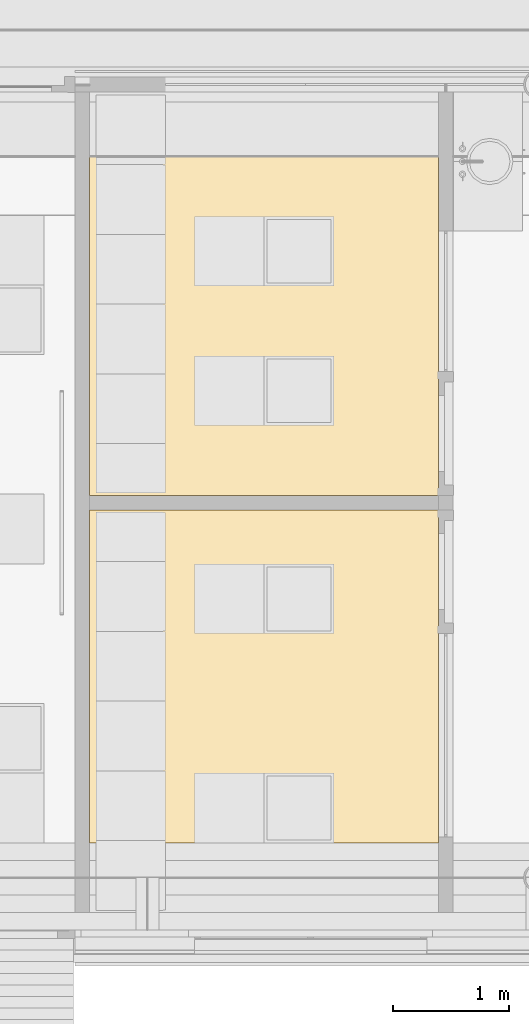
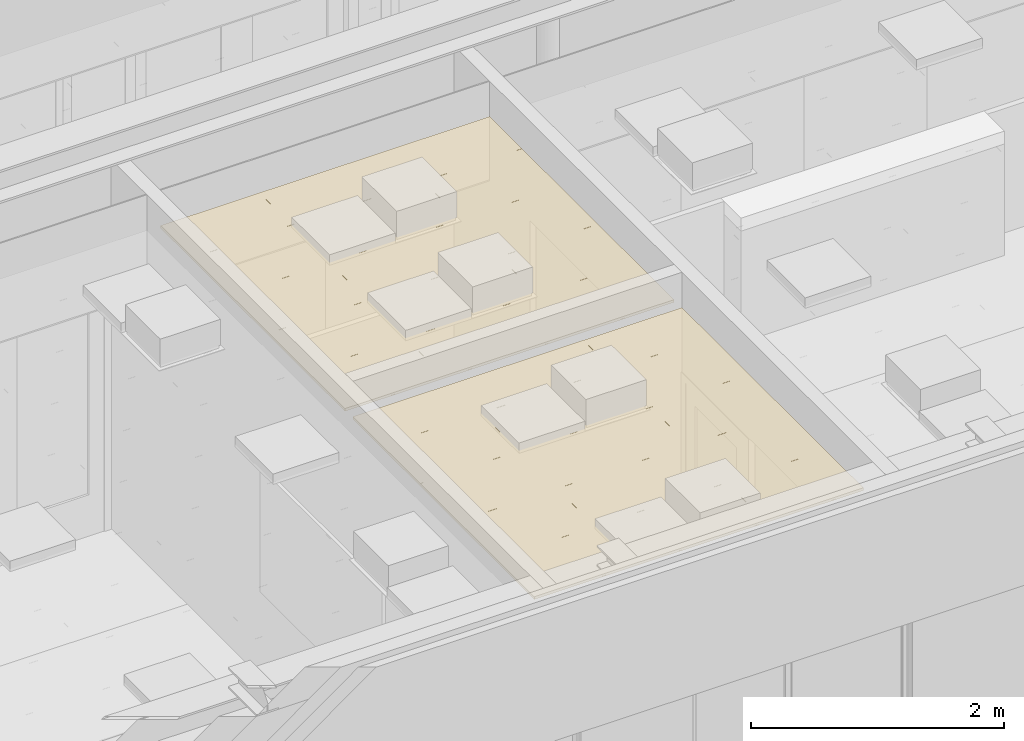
# One storey, part 158 of 347: 2 coverings.
"""IFC2X3 building model written with IfcOpenShell, lengths in millimetres."""

from ifc_helpers import new_model, entity, si_unit, converted_unit, derived_unit, money_unit, direction, frame, origin_with_axes, place, context, subcontext, project, spatial, faceted_brep, type_object, element, save


model = new_model("IFC2X3")

# Units and contexts
model_context = context("Model", 3, precision=0.01, world=origin_with_axes(), true_north=direction((0.0, 1.0)))
plan_context = context("Plan", 3, precision=0.01, world=origin_with_axes(), true_north=direction((0.0, 1.0)))
body_context = subcontext(model_context, "Body", "Model", "MODEL_VIEW")
ifc_project = project(units=[si_unit("LENGTHUNIT", "METRE", prefix="MILLI"), si_unit("AREAUNIT", "SQUARE_METRE"), si_unit("VOLUMEUNIT", "CUBIC_METRE"), converted_unit("PLANEANGLEUNIT", "DEGREE", entity("IfcPlaneAngleMeasure", 0.0174532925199), si_unit("PLANEANGLEUNIT", "RADIAN"), dimensions=[0, 0, 0, 0, 0, 0, 0]), money_unit("EUR"), converted_unit("TIMEUNIT", "Year", entity("IfcTimeMeasure", 31556926.0), si_unit("TIMEUNIT", "SECOND"), dimensions=[0, 0, 1, 0, 0, 0, 0]), si_unit("MASSUNIT", "GRAM", prefix="KILO"), si_unit("THERMODYNAMICTEMPERATUREUNIT", "DEGREE_CELSIUS"), si_unit("LUMINOUSINTENSITYUNIT", "LUMEN"), si_unit("ENERGYUNIT", "JOULE", prefix="MEGA"), derived_unit("THERMALCONDUCTANCEUNIT", [(si_unit("POWERUNIT", "WATT"), 1), (si_unit("LENGTHUNIT", "METRE"), -1), (si_unit("THERMODYNAMICTEMPERATUREUNIT", "KELVIN"), -1)]), derived_unit("SPECIFICHEATCAPACITYUNIT", [(si_unit("ENERGYUNIT", "JOULE"), 1), (si_unit("MASSUNIT", "GRAM", prefix="KILO"), -1), (si_unit("THERMODYNAMICTEMPERATUREUNIT", "KELVIN"), -1)]), derived_unit("MASSDENSITYUNIT", [(si_unit("MASSUNIT", "GRAM", prefix="KILO"), 1), (si_unit("VOLUMEUNIT", "CUBIC_METRE"), -1)])], contexts=[model_context, plan_context])

# Site, building, storey
site_placement = place(None, origin_with_axes())
site = spatial("IfcSite", under=ifc_project, at=site_placement, Name="Site", CompositionType="ELEMENT")
building_placement = place(site_placement, origin_with_axes())
building = spatial("IfcBuilding", under=site, at=building_placement, Name="Naam gebouw", CompositionType="ELEMENT")
storey_placement = place(building_placement, origin_with_axes())
storey = spatial("IfcBuildingStorey", under=building, at=storey_placement, Name="begane grond", CompositionType="ELEMENT", Elevation=0.0)

# Coverings
covering_type = type_object("IfcCoveringType", Name="Ceiling Editor INT_v2.01", PredefinedType="CEILING")
covering_1_placement = place(storey_placement, frame((14650.0, 8590.0, 3200.0), z_axis=(0.0, 0.0, 1.0), x_axis=(1.0, 0.0, 0.0)))
element("IfcCovering", 1, at=covering_1_placement, inside=storey, type_object=covering_type, Name="45 Plafondafwerkingen_77 garderobe", PredefinedType="CEILING", context=body_context, shape_type="Brep", body=[
    faceted_brep([(0.0, 599.9, 0.0), (0.0, 599.9, 20.0), (899.9, 599.9, 20.0), (899.9, 599.9, 0.0), (0.0, 0.1, 0.0), (0.0, 0.1, 20.0), (899.9, 0.1, 20.0), (899.9, 0.1, 0.0)], [[[0, 1, 2, 3]], [[1, 0, 4, 5]], [[1, 5, 6, 2]], [[6, 7, 3, 2]], [[4, 0, 3, 7]], [[5, 4, 7, 6]]]),
    faceted_brep([(0.0, 1199.9, 0.0), (0.0, 1199.9, 20.0), (899.9, 1199.9, 20.0), (899.9, 1199.9, 0.0), (0.0, 727.499993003, 0.0), (0.0, 727.499993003, 20.0), (0.0, 600.1, 20.0), (899.9, 600.1, 20.0), (899.9, 600.1, 0.0), (0.0, 600.1, 0.0)], [[[0, 1, 2, 3]], [[1, 0, 4, 5]], [[5, 6, 7, 2, 1]], [[7, 8, 3, 2]], [[4, 0, 3, 8, 9]], [[6, 5, 4, 9]], [[6, 9, 8, 7]]]),
    faceted_brep([(0.0, 1799.9, 0.0), (0.0, 1799.9, 20.0), (899.9, 1799.9, 20.0), (899.9, 1799.9, 0.0), (0.0, 1454.99998601, 0.0), (0.0, 1454.99998601, 20.0), (0.0, 1200.1, 20.0), (899.9, 1200.1, 20.0), (899.9, 1200.1, 0.0), (0.0, 1200.1, 0.0)], [[[0, 1, 2, 3]], [[1, 0, 4, 5]], [[5, 6, 7, 2, 1]], [[7, 8, 3, 2]], [[4, 0, 3, 8, 9]], [[6, 5, 4, 9]], [[6, 9, 8, 7]]]),
    faceted_brep([(0.0, 2399.9, 0.0), (0.0, 2399.9, 20.0), (899.9, 2399.9, 20.0), (899.9, 2399.9, 0.0), (0.0, 2182.49997901, 0.0), (0.0, 2182.49997901, 20.0), (0.0, 1800.1, 20.0), (899.9, 1800.1, 20.0), (899.9, 1800.1, 0.0), (0.0, 1800.1, 0.0)], [[[0, 1, 2, 3]], [[1, 0, 4, 5]], [[5, 6, 7, 2, 1]], [[7, 8, 3, 2]], [[4, 0, 3, 8, 9]], [[6, 5, 4, 9]], [[6, 9, 8, 7]]]),
    faceted_brep([(899.9, 2909.99997201, 0.0), (899.9, 2909.99997201, 20.0), (899.9, 2400.1, 20.0), (899.9, 2400.1, 0.0), (750.0, 2909.99997201, 0.0), (750.0, 2909.99997201, 20.0), (0.0, 2909.99997201, 20.0), (0.0, 2400.1, 20.0), (0.0, 2400.1, 0.0), (0.0, 2909.99997201, 0.0)], [[[0, 1, 2, 3]], [[1, 0, 4, 5]], [[6, 7, 2, 1, 5]], [[7, 8, 3, 2]], [[4, 0, 3, 8, 9]], [[6, 5, 4, 9]], [[7, 6, 9, 8]]]),
    faceted_brep([(2099.9, 0.1, 20.0), (2099.9, 0.1, 0.0), (2099.9, 599.9, 0.0), (2099.9, 599.9, 20.0), (900.1, 0.1, 20.0), (900.1, 0.1, 0.0), (900.1, 599.9, 0.0), (900.1, 599.9, 20.0)], [[[0, 1, 2, 3]], [[4, 5, 1, 0]], [[2, 1, 5, 6]], [[3, 2, 6, 7]], [[4, 0, 3, 7]], [[7, 6, 5, 4]]]),
    faceted_brep([(2099.9, 600.1, 20.0), (2099.9, 600.1, 0.0), (2099.9, 1199.9, 0.0), (2099.9, 1199.9, 20.0), (900.1, 600.1, 20.0), (900.1, 600.1, 0.0), (900.1, 1199.9, 0.0), (900.1, 1199.9, 20.0)], [[[0, 1, 2, 3]], [[4, 5, 1, 0]], [[2, 1, 5, 6]], [[3, 2, 6, 7]], [[4, 0, 3, 7]], [[7, 6, 5, 4]]]),
    faceted_brep([(2099.9, 1200.1, 20.0), (2099.9, 1200.1, 0.0), (2099.9, 1799.9, 0.0), (2099.9, 1799.9, 20.0), (900.1, 1200.1, 20.0), (900.1, 1200.1, 0.0), (900.1, 1799.9, 0.0), (900.1, 1799.9, 20.0)], [[[0, 1, 2, 3]], [[4, 5, 1, 0]], [[2, 1, 5, 6]], [[3, 2, 6, 7]], [[4, 0, 3, 7]], [[7, 6, 5, 4]]]),
    faceted_brep([(2099.9, 1800.1, 20.0), (2099.9, 1800.1, 0.0), (2099.9, 2399.9, 0.0), (2099.9, 2399.9, 20.0), (900.1, 1800.1, 20.0), (900.1, 1800.1, 0.0), (900.1, 2399.9, 0.0), (900.1, 2399.9, 20.0)], [[[0, 1, 2, 3]], [[4, 5, 1, 0]], [[2, 1, 5, 6]], [[3, 2, 6, 7]], [[4, 0, 3, 7]], [[7, 6, 5, 4]]]),
    faceted_brep([(2099.9, 2909.99997201, 0.0), (2099.9, 2909.99997201, 20.0), (2099.9, 2400.1, 20.0), (2099.9, 2400.1, 0.0), (1500.0, 2909.99997201, 0.0), (1500.0, 2909.99997201, 20.0), (900.1, 2909.99997201, 20.0), (900.1, 2400.1, 20.0), (900.1, 2400.1, 0.0), (900.1, 2909.99997201, 0.0)], [[[0, 1, 2, 3]], [[1, 0, 4, 5]], [[5, 6, 7, 2, 1]], [[7, 8, 3, 2]], [[4, 0, 3, 8, 9]], [[6, 5, 4, 9]], [[6, 9, 8, 7]]]),
    faceted_brep([(3000.0, 0.1, 20.0), (3000.0, 599.9, 20.0), (2100.1, 599.9, 20.0), (2100.1, 0.1, 20.0), (3000.0, 0.1, 0.0), (3000.0, 599.9, 0.0), (2100.1, 599.9, 0.0), (2100.1, 0.1, 0.0)], [[[0, 1, 2, 3]], [[1, 0, 4, 5]], [[1, 5, 6, 2]], [[2, 6, 7, 3]], [[4, 0, 3, 7]], [[5, 4, 7, 6]]]),
    faceted_brep([(3000.0, 727.499993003, 20.0), (3000.0, 1199.9, 20.0), (2100.1, 1199.9, 20.0), (2100.1, 600.1, 20.0), (3000.0, 600.1, 20.0), (3000.0, 727.499993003, 0.0), (3000.0, 1199.9, 0.0), (2100.1, 1199.9, 0.0), (2100.1, 600.1, 0.0), (3000.0, 600.1, 0.0)], [[[0, 1, 2, 3, 4]], [[1, 0, 5, 6]], [[1, 6, 7, 2]], [[2, 7, 8, 3]], [[9, 4, 3, 8]], [[0, 4, 9, 5]], [[5, 9, 8, 7, 6]]]),
    faceted_brep([(3000.0, 1454.99998601, 20.0), (3000.0, 1799.9, 20.0), (2100.1, 1799.9, 20.0), (2100.1, 1200.1, 20.0), (3000.0, 1200.1, 20.0), (3000.0, 1454.99998601, 0.0), (3000.0, 1799.9, 0.0), (2100.1, 1799.9, 0.0), (2100.1, 1200.1, 0.0), (3000.0, 1200.1, 0.0)], [[[0, 1, 2, 3, 4]], [[1, 0, 5, 6]], [[1, 6, 7, 2]], [[2, 7, 8, 3]], [[9, 4, 3, 8]], [[0, 4, 9, 5]], [[5, 9, 8, 7, 6]]]),
    faceted_brep([(3000.0, 2182.49997901, 20.0), (3000.0, 2399.9, 20.0), (2100.1, 2399.9, 20.0), (2100.1, 1800.1, 20.0), (3000.0, 1800.1, 20.0), (3000.0, 2182.49997901, 0.0), (3000.0, 2399.9, 0.0), (2100.1, 2399.9, 0.0), (2100.1, 1800.1, 0.0), (3000.0, 1800.1, 0.0)], [[[0, 1, 2, 3, 4]], [[1, 0, 5, 6]], [[1, 6, 7, 2]], [[2, 7, 8, 3]], [[9, 4, 3, 8]], [[0, 4, 9, 5]], [[5, 9, 8, 7, 6]]]),
    faceted_brep([(3000.0, 2400.1, 20.0), (3000.0, 2909.99997201, 20.0), (2250.0, 2909.99997201, 20.0), (2100.1, 2909.99997201, 20.0), (2100.1, 2400.1, 20.0), (3000.0, 2400.1, 0.0), (3000.0, 2909.99997201, 0.0), (2250.0, 2909.99997201, 0.0), (2100.1, 2909.99997201, 0.0), (2100.1, 2400.1, 0.0)], [[[0, 1, 2, 3, 4]], [[1, 0, 5, 6]], [[2, 1, 6, 7]], [[3, 2, 7, 8]], [[3, 8, 9, 4]], [[5, 0, 4, 9]], [[6, 5, 9, 8, 7]]]),
    faceted_brep([(887.5, 25.0, -5.0), (887.5, 25.0, 0.0), (887.5, 587.5, 0.0), (887.5, 587.5, -5.0), (25.0, 25.0, -5.0), (25.0, 25.0, 0.0), (3000.0, 1187.5, 0.0), (3000.0, 1212.5, 0.0), (3000.0, 1787.5, 0.0), (3000.0, 1812.5, 0.0), (3000.0, 2387.5, 0.0), (3000.0, 2412.5, 0.0), (3000.0, 2909.99997201, 0.0), (2112.5, 2909.99997201, 0.0), (2087.5, 2909.99997201, 0.0), (912.5, 2909.99997201, 0.0), (887.5, 2909.99997201, 0.0), (0.0, 2909.99997201, 0.0), (0.0, 2412.5, 0.0), (0.0, 2387.5, 0.0), (0.0, 1812.5, 0.0), (0.0, 1787.5, 0.0), (0.0, 1212.5, 0.0), (0.0, 1187.5, 0.0), (0.0, 612.5, 0.0), (0.0, 587.5, 0.0), (0.0, 12.5, 0.0), (0.0, 0.0, 0.0), (750.0, 0.0, 0.0), (1500.0, 0.0, 0.0), (2250.0, 0.0, 0.0), (3000.0, 0.0, 0.0), (3000.0, 12.5, 0.0), (3000.0, 587.5, 0.0), (3000.0, 612.5, 0.0), (912.5, 25.0, 0.0), (912.5, 587.5, 0.0), (2087.5, 587.5, 0.0), (2087.5, 25.0, 0.0), (912.5, 1187.5, 0.0), (2087.5, 1187.5, 0.0), (2087.5, 612.5, 0.0), (912.5, 612.5, 0.0), (912.5, 1787.5, 0.0), (2087.5, 1787.5, 0.0), (2087.5, 1212.5, 0.0), (912.5, 1212.5, 0.0), (912.5, 2387.5, 0.0), (2087.5, 2387.5, 0.0), (2087.5, 1812.5, 0.0), (912.5, 1812.5, 0.0), (25.0, 587.5, 0.0), (25.0, 1187.5, 0.0), (887.5, 1187.5, 0.0), (887.5, 612.5, 0.0), (25.0, 612.5, 0.0), (25.0, 1787.5, 0.0), (887.5, 1787.5, 0.0), (887.5, 1212.5, 0.0), (25.0, 1212.5, 0.0), (25.0, 2387.5, 0.0), (887.5, 2387.5, 0.0), (887.5, 1812.5, 0.0), (25.0, 1812.5, 0.0), (887.5, 2884.99997201, 0.0), (887.5, 2412.5, 0.0), (25.0, 2412.5, 0.0), (25.0, 2884.99997201, 0.0), (2087.5, 2884.99997201, 0.0), (2087.5, 2412.5, 0.0), (912.5, 2412.5, 0.0), (912.5, 2884.99997201, 0.0), (2975.0, 2884.99997201, 0.0), (2975.0, 2412.5, 0.0), (2112.5, 2412.5, 0.0), (2112.5, 2884.99997201, 0.0), (2975.0, 1812.5, 0.0), (2112.5, 1812.5, 0.0), (2112.5, 2387.5, 0.0), (2975.0, 2387.5, 0.0), (2975.0, 1212.5, 0.0), (2112.5, 1212.5, 0.0), (2112.5, 1787.5, 0.0), (2975.0, 1787.5, 0.0), (2112.5, 25.0, 0.0), (2112.5, 587.5, 0.0), (2975.0, 587.5, 0.0), (2975.0, 25.0, 0.0), (2975.0, 612.5, 0.0), (2112.5, 612.5, 0.0), (2112.5, 1187.5, 0.0), (2975.0, 1187.5, 0.0), (25.0, 587.5, -5.0), (3000.0, 612.5, -5.0), (3000.0, 587.5, -5.0), (3000.0, 12.5, -5.0), (3000.0, 0.0, -5.0), (2250.0, 0.0, -5.0), (1500.0, 0.0, -5.0), (750.0, 0.0, -5.0), (0.0, 0.0, -5.0), (0.0, 12.5, -5.0), (0.0, 587.5, -5.0), (0.0, 612.5, -5.0), (0.0, 1187.5, -5.0), (0.0, 1212.5, -5.0), (0.0, 1787.5, -5.0), (0.0, 1812.5, -5.0), (0.0, 2387.5, -5.0), (0.0, 2412.5, -5.0), (0.0, 2909.99997201, -5.0), (887.5, 2909.99997201, -5.0), (912.5, 2909.99997201, -5.0), (2087.5, 2909.99997201, -5.0), (2112.5, 2909.99997201, -5.0), (3000.0, 2909.99997201, -5.0), (3000.0, 2412.5, -5.0), (3000.0, 2387.5, -5.0), (3000.0, 1812.5, -5.0), (3000.0, 1787.5, -5.0), (3000.0, 1212.5, -5.0), (3000.0, 1187.5, -5.0), (2087.5, 25.0, -5.0), (2087.5, 587.5, -5.0), (912.5, 587.5, -5.0), (912.5, 25.0, -5.0), (2087.5, 612.5, -5.0), (2087.5, 1187.5, -5.0), (912.5, 1187.5, -5.0), (912.5, 612.5, -5.0), (2087.5, 1212.5, -5.0), (2087.5, 1787.5, -5.0), (912.5, 1787.5, -5.0), (912.5, 1212.5, -5.0), (2087.5, 1812.5, -5.0), (2087.5, 2387.5, -5.0), (912.5, 2387.5, -5.0), (912.5, 1812.5, -5.0), (25.0, 1187.5, -5.0), (25.0, 612.5, -5.0), (887.5, 612.5, -5.0), (887.5, 1187.5, -5.0), (25.0, 1787.5, -5.0), (25.0, 1212.5, -5.0), (887.5, 1212.5, -5.0), (887.5, 1787.5, -5.0), (25.0, 2387.5, -5.0), (25.0, 1812.5, -5.0), (887.5, 1812.5, -5.0), (887.5, 2387.5, -5.0), (887.5, 2884.99997201, -5.0), (25.0, 2884.99997201, -5.0), (25.0, 2412.5, -5.0), (887.5, 2412.5, -5.0), (2087.5, 2884.99997201, -5.0), (912.5, 2884.99997201, -5.0), (912.5, 2412.5, -5.0), (2087.5, 2412.5, -5.0), (2975.0, 2884.99997201, -5.0), (2112.5, 2884.99997201, -5.0), (2112.5, 2412.5, -5.0), (2975.0, 2412.5, -5.0), (2975.0, 2387.5, -5.0), (2112.5, 2387.5, -5.0), (2112.5, 1812.5, -5.0), (2975.0, 1812.5, -5.0), (2975.0, 1787.5, -5.0), (2112.5, 1787.5, -5.0), (2112.5, 1212.5, -5.0), (2975.0, 1212.5, -5.0), (2975.0, 25.0, -5.0), (2975.0, 587.5, -5.0), (2112.5, 587.5, -5.0), (2112.5, 25.0, -5.0), (2975.0, 1187.5, -5.0), (2112.5, 1187.5, -5.0), (2112.5, 612.5, -5.0), (2975.0, 612.5, -5.0)], [[[0, 1, 2, 3]], [[1, 0, 4, 5]], [[6, 7, 8, 9, 10, 11, 12, 13, 14, 15, 16, 17, 18, 19, 20, 21, 22, 23, 24, 25, 26, 27, 28, 29, 30, 31, 32, 33, 34], [35, 36, 37, 38], [39, 40, 41, 42], [43, 44, 45, 46], [47, 48, 49, 50], [1, 5, 51, 2], [52, 53, 54, 55], [56, 57, 58, 59], [60, 61, 62, 63], [64, 65, 66, 67], [68, 69, 70, 71], [72, 73, 74, 75], [76, 77, 78, 79], [80, 81, 82, 83], [84, 85, 86, 87], [88, 89, 90, 91]], [[51, 92, 3, 2]], [[93, 94, 95, 96, 97, 98, 99, 100, 101, 102, 103, 104, 105, 106, 107, 108, 109, 110, 111, 112, 113, 114, 115, 116, 117, 118, 119, 120, 121], [122, 123, 124, 125], [126, 127, 128, 129], [130, 131, 132, 133], [134, 135, 136, 137], [0, 3, 92, 4], [138, 139, 140, 141], [142, 143, 144, 145], [146, 147, 148, 149], [150, 151, 152, 153], [154, 155, 156, 157], [158, 159, 160, 161], [162, 163, 164, 165], [166, 167, 168, 169], [170, 171, 172, 173], [174, 175, 176, 177]], [[92, 51, 5, 4]], [[93, 121, 120, 119, 118, 117, 116, 115, 12, 11, 10, 9, 8, 7, 6, 34, 33, 32, 31, 96, 95, 94]], [[12, 115, 114, 113, 112, 111, 110, 17, 16, 15, 14, 13]], [[17, 110, 109, 108, 107, 106, 105, 104, 103, 102, 101, 100, 27, 26, 25, 24, 23, 22, 21, 20, 19, 18]], [[100, 99, 28, 27]], [[98, 29, 28, 99]], [[97, 30, 29, 98]], [[97, 96, 31, 30]], [[35, 125, 124, 36]], [[124, 123, 37, 36]], [[122, 38, 37, 123]], [[35, 38, 122, 125]], [[128, 127, 40, 39]], [[41, 40, 127, 126]], [[42, 41, 126, 129]], [[129, 128, 39, 42]], [[132, 131, 44, 43]], [[45, 44, 131, 130]], [[46, 45, 130, 133]], [[133, 132, 43, 46]], [[136, 135, 48, 47]], [[49, 48, 135, 134]], [[50, 49, 134, 137]], [[137, 136, 47, 50]], [[52, 138, 141, 53]], [[54, 53, 141, 140]], [[139, 55, 54, 140]], [[138, 52, 55, 139]], [[56, 142, 145, 57]], [[58, 57, 145, 144]], [[143, 59, 58, 144]], [[142, 56, 59, 143]], [[60, 146, 149, 61]], [[62, 61, 149, 148]], [[147, 63, 62, 148]], [[146, 60, 63, 147]], [[64, 150, 153, 65]], [[152, 66, 65, 153]], [[151, 67, 66, 152]], [[150, 64, 67, 151]], [[68, 154, 157, 69]], [[70, 69, 157, 156]], [[155, 71, 70, 156]], [[154, 68, 71, 155]], [[72, 158, 161, 73]], [[73, 161, 160, 74]], [[159, 75, 74, 160]], [[158, 72, 75, 159]], [[76, 165, 164, 77]], [[164, 163, 78, 77]], [[162, 79, 78, 163]], [[76, 79, 162, 165]], [[80, 169, 168, 81]], [[168, 167, 82, 81]], [[166, 83, 82, 167]], [[80, 83, 166, 169]], [[84, 173, 172, 85]], [[171, 86, 85, 172]], [[170, 87, 86, 171]], [[84, 87, 170, 173]], [[88, 177, 176, 89]], [[176, 175, 90, 89]], [[174, 91, 90, 175]], [[88, 91, 174, 177]]]),
])
covering_2_placement = place(storey_placement, frame((14650.0, 5599.99997201, 3200.0), z_axis=(0.0, 0.0, 1.0), x_axis=(1.0, 0.0, 0.0)))
element("IfcCovering", 2, at=covering_2_placement, inside=storey, type_object=covering_type, Name="45 Plafondafwerkingen_77 garderobe", PredefinedType="CEILING", context=body_context, shape_type="Brep", body=[
    faceted_brep([(0.0, 599.9, 0.0), (0.0, 599.9, 20.0), (899.9, 599.9, 20.0), (899.9, 599.9, 0.0), (0.0, 0.0999999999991, 0.0), (0.0, 0.0999999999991, 20.0), (899.9, 0.0999999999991, 20.0), (899.9, 0.0999999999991, 0.0)], [[[0, 1, 2, 3]], [[1, 0, 4, 5]], [[1, 5, 6, 2]], [[6, 7, 3, 2]], [[4, 0, 3, 7]], [[5, 4, 7, 6]]]),
    faceted_brep([(0.0, 1199.9, 0.0), (0.0, 1199.9, 20.0), (899.9, 1199.9, 20.0), (899.9, 1199.9, 0.0), (0.0, 716.250006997, 0.0), (0.0, 716.250006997, 20.0), (0.0, 600.1, 20.0), (899.9, 600.1, 20.0), (899.9, 600.1, 0.0), (0.0, 600.1, 0.0)], [[[0, 1, 2, 3]], [[1, 0, 4, 5]], [[5, 6, 7, 2, 1]], [[7, 8, 3, 2]], [[4, 0, 3, 8, 9]], [[6, 5, 4, 9]], [[6, 9, 8, 7]]]),
    faceted_brep([(0.0, 1799.9, 0.0), (0.0, 1799.9, 20.0), (899.9, 1799.9, 20.0), (899.9, 1799.9, 0.0), (0.0, 1432.50001399, 0.0), (0.0, 1432.50001399, 20.0), (0.0, 1200.1, 20.0), (899.9, 1200.1, 20.0), (899.9, 1200.1, 0.0), (0.0, 1200.1, 0.0)], [[[0, 1, 2, 3]], [[1, 0, 4, 5]], [[5, 6, 7, 2, 1]], [[7, 8, 3, 2]], [[4, 0, 3, 8, 9]], [[6, 5, 4, 9]], [[6, 9, 8, 7]]]),
    faceted_brep([(0.0, 2399.9, 0.0), (0.0, 2399.9, 20.0), (899.9, 2399.9, 20.0), (899.9, 2399.9, 0.0), (0.0, 2148.75002099, 0.0), (0.0, 2148.75002099, 20.0), (0.0, 1800.1, 20.0), (899.9, 1800.1, 20.0), (899.9, 1800.1, 0.0), (0.0, 1800.1, 0.0)], [[[0, 1, 2, 3]], [[1, 0, 4, 5]], [[5, 6, 7, 2, 1]], [[7, 8, 3, 2]], [[4, 0, 3, 8, 9]], [[6, 5, 4, 9]], [[6, 9, 8, 7]]]),
    faceted_brep([(899.9, 2865.00002799, 0.0), (899.9, 2865.00002799, 20.0), (899.9, 2400.1, 20.0), (899.9, 2400.1, 0.0), (750.0, 2865.00002799, 0.0), (750.0, 2865.00002799, 20.0), (0.0, 2865.00002799, 20.0), (0.0, 2400.1, 20.0), (0.0, 2400.1, 0.0), (0.0, 2865.00002799, 0.0)], [[[0, 1, 2, 3]], [[1, 0, 4, 5]], [[6, 7, 2, 1, 5]], [[7, 8, 3, 2]], [[4, 0, 3, 8, 9]], [[6, 5, 4, 9]], [[7, 6, 9, 8]]]),
    faceted_brep([(2099.9, 0.0999999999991, 20.0), (2099.9, 0.0999999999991, 0.0), (2099.9, 599.9, 0.0), (2099.9, 599.9, 20.0), (900.1, 0.0999999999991, 20.0), (900.1, 0.0999999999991, 0.0), (900.1, 599.9, 0.0), (900.1, 599.9, 20.0)], [[[0, 1, 2, 3]], [[4, 5, 1, 0]], [[2, 1, 5, 6]], [[3, 2, 6, 7]], [[4, 0, 3, 7]], [[7, 6, 5, 4]]]),
    faceted_brep([(2099.9, 600.1, 20.0), (2099.9, 600.1, 0.0), (2099.9, 1199.9, 0.0), (2099.9, 1199.9, 20.0), (900.1, 600.1, 20.0), (900.1, 600.1, 0.0), (900.1, 1199.9, 0.0), (900.1, 1199.9, 20.0)], [[[0, 1, 2, 3]], [[4, 5, 1, 0]], [[2, 1, 5, 6]], [[3, 2, 6, 7]], [[4, 0, 3, 7]], [[7, 6, 5, 4]]]),
    faceted_brep([(2099.9, 1200.1, 20.0), (2099.9, 1200.1, 0.0), (2099.9, 1799.9, 0.0), (2099.9, 1799.9, 20.0), (900.1, 1200.1, 20.0), (900.1, 1200.1, 0.0), (900.1, 1799.9, 0.0), (900.1, 1799.9, 20.0)], [[[0, 1, 2, 3]], [[4, 5, 1, 0]], [[2, 1, 5, 6]], [[3, 2, 6, 7]], [[4, 0, 3, 7]], [[7, 6, 5, 4]]]),
    faceted_brep([(2099.9, 1800.1, 20.0), (2099.9, 1800.1, 0.0), (2099.9, 2399.9, 0.0), (2099.9, 2399.9, 20.0), (900.1, 1800.1, 20.0), (900.1, 1800.1, 0.0), (900.1, 2399.9, 0.0), (900.1, 2399.9, 20.0)], [[[0, 1, 2, 3]], [[4, 5, 1, 0]], [[2, 1, 5, 6]], [[3, 2, 6, 7]], [[4, 0, 3, 7]], [[7, 6, 5, 4]]]),
    faceted_brep([(2099.9, 2865.00002799, 0.0), (2099.9, 2865.00002799, 20.0), (2099.9, 2400.1, 20.0), (2099.9, 2400.1, 0.0), (1500.0, 2865.00002799, 0.0), (1500.0, 2865.00002799, 20.0), (900.1, 2865.00002799, 20.0), (900.1, 2400.1, 20.0), (900.1, 2400.1, 0.0), (900.1, 2865.00002799, 0.0)], [[[0, 1, 2, 3]], [[1, 0, 4, 5]], [[5, 6, 7, 2, 1]], [[7, 8, 3, 2]], [[4, 0, 3, 8, 9]], [[6, 5, 4, 9]], [[6, 9, 8, 7]]]),
    faceted_brep([(3000.0, 0.0999999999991, 20.0), (3000.0, 599.9, 20.0), (2100.1, 599.9, 20.0), (2100.1, 0.0999999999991, 20.0), (3000.0, 0.0999999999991, 0.0), (3000.0, 599.9, 0.0), (2100.1, 599.9, 0.0), (2100.1, 0.0999999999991, 0.0)], [[[0, 1, 2, 3]], [[1, 0, 4, 5]], [[1, 5, 6, 2]], [[2, 6, 7, 3]], [[4, 0, 3, 7]], [[5, 4, 7, 6]]]),
    faceted_brep([(3000.0, 716.250006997, 20.0), (3000.0, 1199.9, 20.0), (2100.1, 1199.9, 20.0), (2100.1, 600.1, 20.0), (3000.0, 600.1, 20.0), (3000.0, 716.250006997, 0.0), (3000.0, 1199.9, 0.0), (2100.1, 1199.9, 0.0), (2100.1, 600.1, 0.0), (3000.0, 600.1, 0.0)], [[[0, 1, 2, 3, 4]], [[1, 0, 5, 6]], [[1, 6, 7, 2]], [[2, 7, 8, 3]], [[9, 4, 3, 8]], [[0, 4, 9, 5]], [[5, 9, 8, 7, 6]]]),
    faceted_brep([(3000.0, 1432.50001399, 20.0), (3000.0, 1799.9, 20.0), (2100.1, 1799.9, 20.0), (2100.1, 1200.1, 20.0), (3000.0, 1200.1, 20.0), (3000.0, 1432.50001399, 0.0), (3000.0, 1799.9, 0.0), (2100.1, 1799.9, 0.0), (2100.1, 1200.1, 0.0), (3000.0, 1200.1, 0.0)], [[[0, 1, 2, 3, 4]], [[1, 0, 5, 6]], [[1, 6, 7, 2]], [[2, 7, 8, 3]], [[9, 4, 3, 8]], [[0, 4, 9, 5]], [[5, 9, 8, 7, 6]]]),
    faceted_brep([(3000.0, 2148.75002099, 20.0), (3000.0, 2399.9, 20.0), (2100.1, 2399.9, 20.0), (2100.1, 1800.1, 20.0), (3000.0, 1800.1, 20.0), (3000.0, 2148.75002099, 0.0), (3000.0, 2399.9, 0.0), (2100.1, 2399.9, 0.0), (2100.1, 1800.1, 0.0), (3000.0, 1800.1, 0.0)], [[[0, 1, 2, 3, 4]], [[1, 0, 5, 6]], [[1, 6, 7, 2]], [[2, 7, 8, 3]], [[9, 4, 3, 8]], [[0, 4, 9, 5]], [[5, 9, 8, 7, 6]]]),
    faceted_brep([(3000.0, 2400.1, 20.0), (3000.0, 2865.00002799, 20.0), (2250.0, 2865.00002799, 20.0), (2100.1, 2865.00002799, 20.0), (2100.1, 2400.1, 20.0), (3000.0, 2400.1, 0.0), (3000.0, 2865.00002799, 0.0), (2250.0, 2865.00002799, 0.0), (2100.1, 2865.00002799, 0.0), (2100.1, 2400.1, 0.0)], [[[0, 1, 2, 3, 4]], [[1, 0, 5, 6]], [[2, 1, 6, 7]], [[3, 2, 7, 8]], [[3, 8, 9, 4]], [[5, 0, 4, 9]], [[6, 5, 9, 8, 7]]]),
    faceted_brep([(887.5, 25.0, -5.0), (887.5, 25.0, 0.0), (887.5, 587.5, 0.0), (887.5, 587.5, -5.0), (25.0, 25.0, -5.0), (25.0, 25.0, 0.0), (3000.0, 1187.5, 0.0), (3000.0, 1212.5, 0.0), (3000.0, 1787.5, 0.0), (3000.0, 1812.5, 0.0), (3000.0, 2387.5, 0.0), (3000.0, 2412.5, 0.0), (3000.0, 2865.00002799, 0.0), (2112.5, 2865.00002799, 0.0), (2087.5, 2865.00002799, 0.0), (912.5, 2865.00002799, 0.0), (887.5, 2865.00002799, 0.0), (0.0, 2865.00002799, 0.0), (0.0, 2412.5, 0.0), (0.0, 2387.5, 0.0), (0.0, 1812.5, 0.0), (0.0, 1787.5, 0.0), (0.0, 1212.5, 0.0), (0.0, 1187.5, 0.0), (0.0, 612.5, 0.0), (0.0, 587.5, 0.0), (0.0, 12.5, 0.0), (0.0, 0.0, 0.0), (750.0, 0.0, 0.0), (1500.0, 0.0, 0.0), (2250.0, 0.0, 0.0), (3000.0, 0.0, 0.0), (3000.0, 12.5, 0.0), (3000.0, 587.5, 0.0), (3000.0, 612.5, 0.0), (912.5, 25.0, 0.0), (912.5, 587.5, 0.0), (2087.5, 587.5, 0.0), (2087.5, 25.0, 0.0), (912.5, 1187.5, 0.0), (2087.5, 1187.5, 0.0), (2087.5, 612.5, 0.0), (912.5, 612.5, 0.0), (912.5, 1787.5, 0.0), (2087.5, 1787.5, 0.0), (2087.5, 1212.5, 0.0), (912.5, 1212.5, 0.0), (912.5, 2387.5, 0.0), (2087.5, 2387.5, 0.0), (2087.5, 1812.5, 0.0), (912.5, 1812.5, 0.0), (25.0, 587.5, 0.0), (25.0, 1187.5, 0.0), (887.5, 1187.5, 0.0), (887.5, 612.5, 0.0), (25.0, 612.5, 0.0), (25.0, 1787.5, 0.0), (887.5, 1787.5, 0.0), (887.5, 1212.5, 0.0), (25.0, 1212.5, 0.0), (25.0, 2387.5, 0.0), (887.5, 2387.5, 0.0), (887.5, 1812.5, 0.0), (25.0, 1812.5, 0.0), (887.5, 2840.00002799, 0.0), (887.5, 2412.5, 0.0), (25.0, 2412.5, 0.0), (25.0, 2840.00002799, 0.0), (2087.5, 2840.00002799, 0.0), (2087.5, 2412.5, 0.0), (912.5, 2412.5, 0.0), (912.5, 2840.00002799, 0.0), (2975.0, 2840.00002799, 0.0), (2975.0, 2412.5, 0.0), (2112.5, 2412.5, 0.0), (2112.5, 2840.00002799, 0.0), (2975.0, 1812.5, 0.0), (2112.5, 1812.5, 0.0), (2112.5, 2387.5, 0.0), (2975.0, 2387.5, 0.0), (2975.0, 1212.5, 0.0), (2112.5, 1212.5, 0.0), (2112.5, 1787.5, 0.0), (2975.0, 1787.5, 0.0), (2112.5, 25.0, 0.0), (2112.5, 587.5, 0.0), (2975.0, 587.5, 0.0), (2975.0, 25.0, 0.0), (2975.0, 612.5, 0.0), (2112.5, 612.5, 0.0), (2112.5, 1187.5, 0.0), (2975.0, 1187.5, 0.0), (25.0, 587.5, -5.0), (3000.0, 612.5, -5.0), (3000.0, 587.5, -5.0), (3000.0, 12.5, -5.0), (3000.0, 0.0, -5.0), (2250.0, 0.0, -5.0), (1500.0, 0.0, -5.0), (750.0, 0.0, -5.0), (0.0, 0.0, -5.0), (0.0, 12.5, -5.0), (0.0, 587.5, -5.0), (0.0, 612.5, -5.0), (0.0, 1187.5, -5.0), (0.0, 1212.5, -5.0), (0.0, 1787.5, -5.0), (0.0, 1812.5, -5.0), (0.0, 2387.5, -5.0), (0.0, 2412.5, -5.0), (0.0, 2865.00002799, -5.0), (887.5, 2865.00002799, -5.0), (912.5, 2865.00002799, -5.0), (2087.5, 2865.00002799, -5.0), (2112.5, 2865.00002799, -5.0), (3000.0, 2865.00002799, -5.0), (3000.0, 2412.5, -5.0), (3000.0, 2387.5, -5.0), (3000.0, 1812.5, -5.0), (3000.0, 1787.5, -5.0), (3000.0, 1212.5, -5.0), (3000.0, 1187.5, -5.0), (2087.5, 25.0, -5.0), (2087.5, 587.5, -5.0), (912.5, 587.5, -5.0), (912.5, 25.0, -5.0), (2087.5, 612.5, -5.0), (2087.5, 1187.5, -5.0), (912.5, 1187.5, -5.0), (912.5, 612.5, -5.0), (2087.5, 1212.5, -5.0), (2087.5, 1787.5, -5.0), (912.5, 1787.5, -5.0), (912.5, 1212.5, -5.0), (2087.5, 1812.5, -5.0), (2087.5, 2387.5, -5.0), (912.5, 2387.5, -5.0), (912.5, 1812.5, -5.0), (25.0, 1187.5, -5.0), (25.0, 612.5, -5.0), (887.5, 612.5, -5.0), (887.5, 1187.5, -5.0), (25.0, 1787.5, -5.0), (25.0, 1212.5, -5.0), (887.5, 1212.5, -5.0), (887.5, 1787.5, -5.0), (25.0, 2387.5, -5.0), (25.0, 1812.5, -5.0), (887.5, 1812.5, -5.0), (887.5, 2387.5, -5.0), (887.5, 2840.00002799, -5.0), (25.0, 2840.00002799, -5.0), (25.0, 2412.5, -5.0), (887.5, 2412.5, -5.0), (2087.5, 2840.00002799, -5.0), (912.5, 2840.00002799, -5.0), (912.5, 2412.5, -5.0), (2087.5, 2412.5, -5.0), (2975.0, 2840.00002799, -5.0), (2112.5, 2840.00002799, -5.0), (2112.5, 2412.5, -5.0), (2975.0, 2412.5, -5.0), (2975.0, 2387.5, -5.0), (2112.5, 2387.5, -5.0), (2112.5, 1812.5, -5.0), (2975.0, 1812.5, -5.0), (2975.0, 1787.5, -5.0), (2112.5, 1787.5, -5.0), (2112.5, 1212.5, -5.0), (2975.0, 1212.5, -5.0), (2975.0, 25.0, -5.0), (2975.0, 587.5, -5.0), (2112.5, 587.5, -5.0), (2112.5, 25.0, -5.0), (2975.0, 1187.5, -5.0), (2112.5, 1187.5, -5.0), (2112.5, 612.5, -5.0), (2975.0, 612.5, -5.0)], [[[0, 1, 2, 3]], [[1, 0, 4, 5]], [[6, 7, 8, 9, 10, 11, 12, 13, 14, 15, 16, 17, 18, 19, 20, 21, 22, 23, 24, 25, 26, 27, 28, 29, 30, 31, 32, 33, 34], [35, 36, 37, 38], [39, 40, 41, 42], [43, 44, 45, 46], [47, 48, 49, 50], [1, 5, 51, 2], [52, 53, 54, 55], [56, 57, 58, 59], [60, 61, 62, 63], [64, 65, 66, 67], [68, 69, 70, 71], [72, 73, 74, 75], [76, 77, 78, 79], [80, 81, 82, 83], [84, 85, 86, 87], [88, 89, 90, 91]], [[51, 92, 3, 2]], [[93, 94, 95, 96, 97, 98, 99, 100, 101, 102, 103, 104, 105, 106, 107, 108, 109, 110, 111, 112, 113, 114, 115, 116, 117, 118, 119, 120, 121], [122, 123, 124, 125], [126, 127, 128, 129], [130, 131, 132, 133], [134, 135, 136, 137], [0, 3, 92, 4], [138, 139, 140, 141], [142, 143, 144, 145], [146, 147, 148, 149], [150, 151, 152, 153], [154, 155, 156, 157], [158, 159, 160, 161], [162, 163, 164, 165], [166, 167, 168, 169], [170, 171, 172, 173], [174, 175, 176, 177]], [[92, 51, 5, 4]], [[93, 121, 120, 119, 118, 117, 116, 115, 12, 11, 10, 9, 8, 7, 6, 34, 33, 32, 31, 96, 95, 94]], [[12, 115, 114, 113, 112, 111, 110, 17, 16, 15, 14, 13]], [[17, 110, 109, 108, 107, 106, 105, 104, 103, 102, 101, 100, 27, 26, 25, 24, 23, 22, 21, 20, 19, 18]], [[100, 99, 28, 27]], [[98, 29, 28, 99]], [[97, 30, 29, 98]], [[97, 96, 31, 30]], [[35, 125, 124, 36]], [[124, 123, 37, 36]], [[122, 38, 37, 123]], [[35, 38, 122, 125]], [[128, 127, 40, 39]], [[41, 40, 127, 126]], [[42, 41, 126, 129]], [[129, 128, 39, 42]], [[132, 131, 44, 43]], [[45, 44, 131, 130]], [[46, 45, 130, 133]], [[133, 132, 43, 46]], [[136, 135, 48, 47]], [[49, 48, 135, 134]], [[50, 49, 134, 137]], [[137, 136, 47, 50]], [[52, 138, 141, 53]], [[54, 53, 141, 140]], [[139, 55, 54, 140]], [[138, 52, 55, 139]], [[56, 142, 145, 57]], [[58, 57, 145, 144]], [[143, 59, 58, 144]], [[142, 56, 59, 143]], [[60, 146, 149, 61]], [[62, 61, 149, 148]], [[147, 63, 62, 148]], [[146, 60, 63, 147]], [[64, 150, 153, 65]], [[152, 66, 65, 153]], [[151, 67, 66, 152]], [[150, 64, 67, 151]], [[68, 154, 157, 69]], [[70, 69, 157, 156]], [[155, 71, 70, 156]], [[154, 68, 71, 155]], [[72, 158, 161, 73]], [[73, 161, 160, 74]], [[159, 75, 74, 160]], [[158, 72, 75, 159]], [[76, 165, 164, 77]], [[164, 163, 78, 77]], [[162, 79, 78, 163]], [[76, 79, 162, 165]], [[80, 169, 168, 81]], [[168, 167, 82, 81]], [[166, 83, 82, 167]], [[80, 83, 166, 169]], [[84, 173, 172, 85]], [[171, 86, 85, 172]], [[170, 87, 86, 171]], [[84, 87, 170, 173]], [[88, 177, 176, 89]], [[176, 175, 90, 89]], [[174, 91, 90, 175]], [[88, 91, 174, 177]]]),
])

save(model, "model.ifc")
